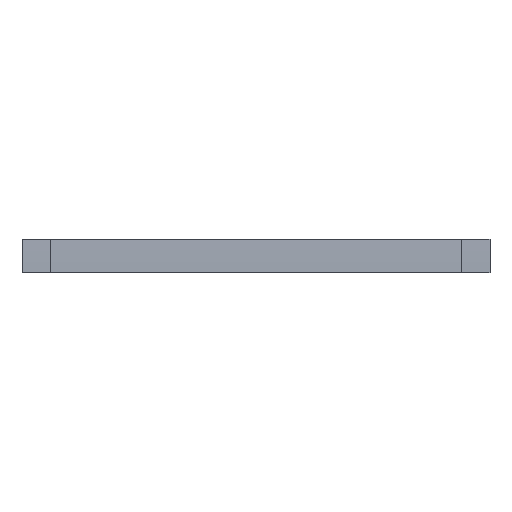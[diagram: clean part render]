
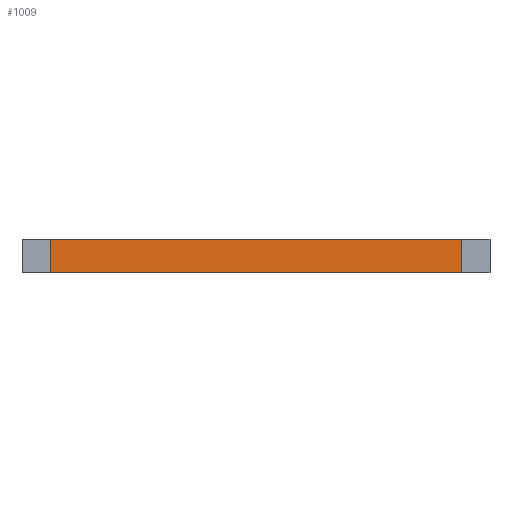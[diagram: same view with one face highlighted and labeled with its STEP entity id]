
A CAD part, front view. The second image highlights one B-rep face of the part: STEP entity #1009.
In plain terms, the highlighted cylindrical face has radius 568 mm (diameter 1136 mm), a partial arc.
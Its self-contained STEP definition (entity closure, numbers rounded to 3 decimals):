
#4 = AXIS2_PLACEMENT_3D ( 'NONE', #728, #746, #727 ) ;
#51 = EDGE_CURVE ( 'NONE', #358, #336, #365, .T. ) ;
#90 = EDGE_CURVE ( 'NONE', #336, #367, #271, .T. ) ;
#108 = AXIS2_PLACEMENT_3D ( 'NONE', #622, #707, #703 ) ;
#133 = EDGE_CURVE ( 'NONE', #358, #320, #235, .T. ) ;
#150 = AXIS2_PLACEMENT_3D ( 'NONE', #628, #636, #651 ) ;
#152 = EDGE_CURVE ( 'NONE', #320, #367, #221, .T. ) ;
#175 = CYLINDRICAL_SURFACE ( 'NONE', #4, 568. ) ;
#180 = FACE_OUTER_BOUND ( 'NONE', #522, .T. ) ;
#218 = VECTOR ( 'NONE', #769, 1000. ) ;
#221 = LINE ( 'NONE', #829, #218 ) ;
#235 = CIRCLE ( 'NONE', #150, 568. ) ;
#271 = CIRCLE ( 'NONE', #108, 568. ) ;
#320 = VERTEX_POINT ( 'NONE', #831 ) ;
#331 = VECTOR ( 'NONE', #989, 1000. ) ;
#336 = VERTEX_POINT ( 'NONE', #852 ) ;
#358 = VERTEX_POINT ( 'NONE', #640 ) ;
#365 = LINE ( 'NONE', #983, #331 ) ;
#367 = VERTEX_POINT ( 'NONE', #807 ) ;
#432 = ORIENTED_EDGE ( 'NONE', *, *, #133, .T. ) ;
#436 = ORIENTED_EDGE ( 'NONE', *, *, #51, .F. ) ;
#440 = ORIENTED_EDGE ( 'NONE', *, *, #90, .F. ) ;
#522 = EDGE_LOOP ( 'NONE', ( #440, #436, #432, #540 ) ) ;
#540 = ORIENTED_EDGE ( 'NONE', *, *, #152, .T. ) ;
#622 = CARTESIAN_POINT ( 'NONE',  ( 152., 500., 0. ) ) ;
#628 = CARTESIAN_POINT ( 'NONE',  ( -152., 500., 0. ) ) ;
#636 = DIRECTION ( 'NONE',  ( 1., 0., 0. ) ) ;
#640 = CARTESIAN_POINT ( 'NONE',  ( -152., -67.459, 24.776 ) ) ;
#651 = DIRECTION ( 'NONE',  ( 0., 0., -1. ) ) ;
#703 = DIRECTION ( 'NONE',  ( 0., 0., -1. ) ) ;
#707 = DIRECTION ( 'NONE',  ( 1., 0., 0. ) ) ;
#727 = DIRECTION ( 'NONE',  ( 0., 0., -1. ) ) ;
#728 = CARTESIAN_POINT ( 'NONE',  ( 0., 500., 0. ) ) ;
#746 = DIRECTION ( 'NONE',  ( 1., 0., 0. ) ) ;
#769 = DIRECTION ( 'NONE',  ( 1., 0., 0. ) ) ;
#807 = CARTESIAN_POINT ( 'NONE',  ( 152., -68., 0. ) ) ;
#829 = CARTESIAN_POINT ( 'NONE',  ( -152., -68., 0. ) ) ;
#831 = CARTESIAN_POINT ( 'NONE',  ( -152., -68., 0. ) ) ;
#852 = CARTESIAN_POINT ( 'NONE',  ( 152., -67.459, 24.776 ) ) ;
#983 = CARTESIAN_POINT ( 'NONE',  ( -152., -67.459, 24.776 ) ) ;
#989 = DIRECTION ( 'NONE',  ( 1., 0., 0. ) ) ;
#1009 = ADVANCED_FACE ( 'NONE', ( #180 ), #175, .T. ) ;
